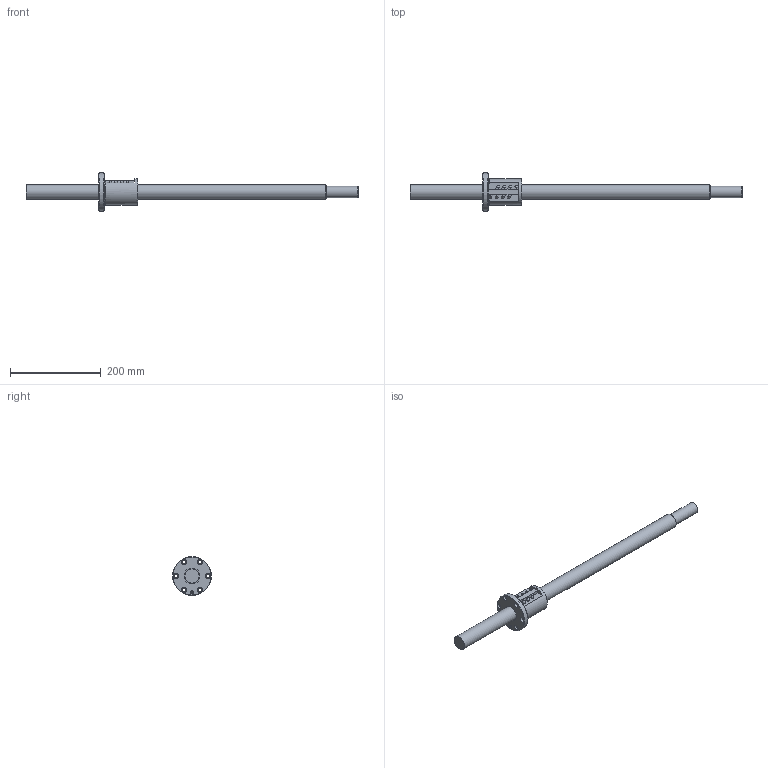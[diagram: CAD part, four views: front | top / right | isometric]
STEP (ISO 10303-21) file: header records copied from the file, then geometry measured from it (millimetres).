
FILE_DESCRIPTION(/* description */ ('STEP AP203'),/* implementation_level */ '2;1');
FILE_NAME(/* name */ 'BIF3205-10RRG0+730LC5A(00)',/* time_stamp */ '2024-07-15T07:28:52+02:00',/* author */ ('License CC BY-ND 4.0'),/* organization */ ('CADENAS'),/* preprocessor_version */ 'ST-DEVELOPER v19.3',/* originating_system */ 'PARTsolutions',/* authorisation */ ' ');
FILE_SCHEMA (('CONFIG_CONTROL_DESIGN'));
Length unit declared in the file: millimetre
Products named in the file (3): BIF3205-10RRG0+730LC5A(00); BIF3205-10RRG0+730LC5, C7A(0)_shaft; BIF 3205-10RR_nut
Assembly tree (2 placements, depth 2):
  BIF3205-10RRG0+730LC5A(00)
    BIF3205-10RRG0+730LC5, C7A(0)_shaft
    BIF 3205-10RR_nut
Bounding box: 730 x 85 x 85 mm (x, y, z)
Volume: 739833.7 mm3; surface area: 112358 mm2
Topology: 2 solids, 2 shells, 93 faces, 211 edges, 139 vertices
Faces by surface type: cylinder 44, plane 32, cone 9, torus 8
Full cylindrical faces by diameter (mm): 4.25 x2, 4.917 x1, 5.4 x8, 6.6 x6, 11 x6, 25.3 x1, 32 x2, 34.8 x2, 58 x1, 85 x1
Entity records: 2559 total; most frequent: CARTESIAN_POINT 505, DIRECTION 436, ORIENTED_EDGE 316, AXIS2_PLACEMENT_3D 198, EDGE_LOOP 181, FACE_BOUND 181, EDGE_CURVE 158, VERTEX_POINT 125
